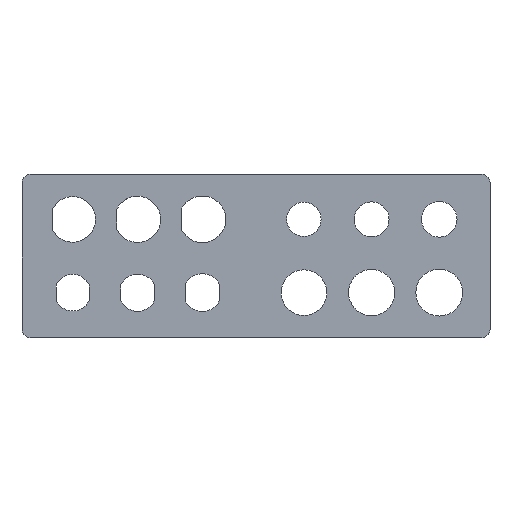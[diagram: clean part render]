
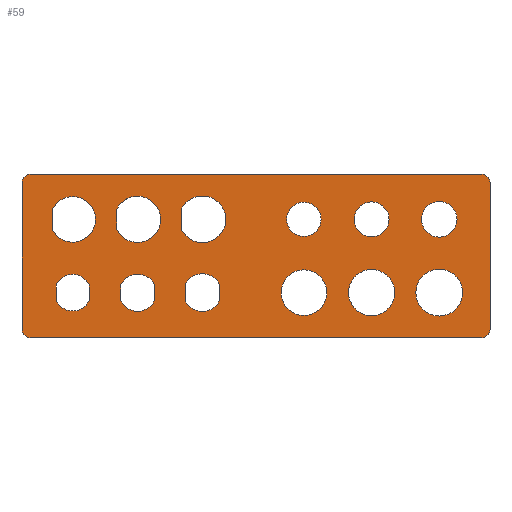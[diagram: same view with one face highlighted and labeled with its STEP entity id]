
A CAD part, top view. The second image highlights one B-rep face of the part: STEP entity #59.
In plain terms, the highlighted planar face has unit normal (0, 0, 1).
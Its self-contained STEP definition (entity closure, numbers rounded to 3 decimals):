
#21 = EDGE_CURVE('',#22,#24,#26,.T.);
#22 = VERTEX_POINT('',#23);
#23 = CARTESIAN_POINT('',(0.,3.,3.2));
#24 = VERTEX_POINT('',#25);
#25 = CARTESIAN_POINT('',(3.,0.,3.2));
#26 = CIRCLE('',#27,3.);
#27 = AXIS2_PLACEMENT_3D('',#28,#29,#30);
#28 = CARTESIAN_POINT('',(3.,3.,3.2));
#29 = DIRECTION('',(0.,0.,1.));
#30 = DIRECTION('',(1.,0.,-0.));
#59 = ADVANCED_FACE('',(#60,#120,#156,#192,#228,#239,#250,#261,#280,#299
    ,#318,#329,#340),#351,.T.);
#60 = FACE_BOUND('',#61,.T.);
#61 = EDGE_LOOP('',(#62,#63,#71,#80,#88,#97,#105,#114));
#62 = ORIENTED_EDGE('',*,*,#21,.T.);
#63 = ORIENTED_EDGE('',*,*,#64,.T.);
#64 = EDGE_CURVE('',#24,#65,#67,.T.);
#65 = VERTEX_POINT('',#66);
#66 = CARTESIAN_POINT('',(163.,0.,3.2));
#67 = LINE('',#68,#69);
#68 = CARTESIAN_POINT('',(3.,0.,3.2));
#69 = VECTOR('',#70,1.);
#70 = DIRECTION('',(1.,0.,-0.));
#71 = ORIENTED_EDGE('',*,*,#72,.T.);
#72 = EDGE_CURVE('',#65,#73,#75,.T.);
#73 = VERTEX_POINT('',#74);
#74 = CARTESIAN_POINT('',(166.,3.,3.2));
#75 = CIRCLE('',#76,3.);
#76 = AXIS2_PLACEMENT_3D('',#77,#78,#79);
#77 = CARTESIAN_POINT('',(163.,3.,3.2));
#78 = DIRECTION('',(0.,0.,1.));
#79 = DIRECTION('',(1.,0.,-0.));
#80 = ORIENTED_EDGE('',*,*,#81,.T.);
#81 = EDGE_CURVE('',#73,#82,#84,.T.);
#82 = VERTEX_POINT('',#83);
#83 = CARTESIAN_POINT('',(166.,55.,3.2));
#84 = LINE('',#85,#86);
#85 = CARTESIAN_POINT('',(166.,3.,3.2));
#86 = VECTOR('',#87,1.);
#87 = DIRECTION('',(-0.,1.,0.));
#88 = ORIENTED_EDGE('',*,*,#89,.T.);
#89 = EDGE_CURVE('',#82,#90,#92,.T.);
#90 = VERTEX_POINT('',#91);
#91 = CARTESIAN_POINT('',(163.,58.,3.2));
#92 = CIRCLE('',#93,3.);
#93 = AXIS2_PLACEMENT_3D('',#94,#95,#96);
#94 = CARTESIAN_POINT('',(163.,55.,3.2));
#95 = DIRECTION('',(0.,0.,1.));
#96 = DIRECTION('',(1.,0.,-0.));
#97 = ORIENTED_EDGE('',*,*,#98,.F.);
#98 = EDGE_CURVE('',#99,#90,#101,.T.);
#99 = VERTEX_POINT('',#100);
#100 = CARTESIAN_POINT('',(3.,58.,3.2));
#101 = LINE('',#102,#103);
#102 = CARTESIAN_POINT('',(3.,58.,3.2));
#103 = VECTOR('',#104,1.);
#104 = DIRECTION('',(1.,0.,-0.));
#105 = ORIENTED_EDGE('',*,*,#106,.T.);
#106 = EDGE_CURVE('',#99,#107,#109,.T.);
#107 = VERTEX_POINT('',#108);
#108 = CARTESIAN_POINT('',(0.,55.,3.2));
#109 = CIRCLE('',#110,3.);
#110 = AXIS2_PLACEMENT_3D('',#111,#112,#113);
#111 = CARTESIAN_POINT('',(3.,55.,3.2));
#112 = DIRECTION('',(0.,0.,1.));
#113 = DIRECTION('',(1.,0.,-0.));
#114 = ORIENTED_EDGE('',*,*,#115,.F.);
#115 = EDGE_CURVE('',#22,#107,#116,.T.);
#116 = LINE('',#117,#118);
#117 = CARTESIAN_POINT('',(0.,3.,3.2));
#118 = VECTOR('',#119,1.);
#119 = DIRECTION('',(-0.,1.,0.));
#120 = FACE_BOUND('',#121,.T.);
#121 = EDGE_LOOP('',(#122,#133,#141,#150));
#122 = ORIENTED_EDGE('',*,*,#123,.F.);
#123 = EDGE_CURVE('',#124,#126,#128,.T.);
#124 = VERTEX_POINT('',#125);
#125 = CARTESIAN_POINT('',(12.1,13.272,3.2));
#126 = VERTEX_POINT('',#127);
#127 = CARTESIAN_POINT('',(23.9,13.272,3.2));
#128 = CIRCLE('',#129,6.5);
#129 = AXIS2_PLACEMENT_3D('',#130,#131,#132);
#130 = CARTESIAN_POINT('',(18.,16.,3.2));
#131 = DIRECTION('',(0.,0.,1.));
#132 = DIRECTION('',(1.,0.,-0.));
#133 = ORIENTED_EDGE('',*,*,#134,.T.);
#134 = EDGE_CURVE('',#124,#135,#137,.T.);
#135 = VERTEX_POINT('',#136);
#136 = CARTESIAN_POINT('',(12.1,18.728,3.2));
#137 = LINE('',#138,#139);
#138 = CARTESIAN_POINT('',(12.1,18.75,3.2));
#139 = VECTOR('',#140,1.);
#140 = DIRECTION('',(-0.,1.,0.));
#141 = ORIENTED_EDGE('',*,*,#142,.F.);
#142 = EDGE_CURVE('',#143,#135,#145,.T.);
#143 = VERTEX_POINT('',#144);
#144 = CARTESIAN_POINT('',(23.9,18.728,3.2));
#145 = CIRCLE('',#146,6.5);
#146 = AXIS2_PLACEMENT_3D('',#147,#148,#149);
#147 = CARTESIAN_POINT('',(18.,16.,3.2));
#148 = DIRECTION('',(0.,0.,1.));
#149 = DIRECTION('',(1.,0.,-0.));
#150 = ORIENTED_EDGE('',*,*,#151,.F.);
#151 = EDGE_CURVE('',#126,#143,#152,.T.);
#152 = LINE('',#153,#154);
#153 = CARTESIAN_POINT('',(23.9,18.75,3.2));
#154 = VECTOR('',#155,1.);
#155 = DIRECTION('',(-0.,1.,0.));
#156 = FACE_BOUND('',#157,.T.);
#157 = EDGE_LOOP('',(#158,#169,#177,#186));
#158 = ORIENTED_EDGE('',*,*,#159,.F.);
#159 = EDGE_CURVE('',#160,#162,#164,.T.);
#160 = VERTEX_POINT('',#161);
#161 = CARTESIAN_POINT('',(35.,13.25,3.2));
#162 = VERTEX_POINT('',#163);
#163 = CARTESIAN_POINT('',(47.,13.25,3.2));
#164 = CIRCLE('',#165,6.6);
#165 = AXIS2_PLACEMENT_3D('',#166,#167,#168);
#166 = CARTESIAN_POINT('',(41.,16.,3.2));
#167 = DIRECTION('',(0.,0.,1.));
#168 = DIRECTION('',(1.,0.,-0.));
#169 = ORIENTED_EDGE('',*,*,#170,.T.);
#170 = EDGE_CURVE('',#160,#171,#173,.T.);
#171 = VERTEX_POINT('',#172);
#172 = CARTESIAN_POINT('',(35.,18.75,3.2));
#173 = LINE('',#174,#175);
#174 = CARTESIAN_POINT('',(35.,18.7,3.2));
#175 = VECTOR('',#176,1.);
#176 = DIRECTION('',(-0.,1.,0.));
#177 = ORIENTED_EDGE('',*,*,#178,.F.);
#178 = EDGE_CURVE('',#179,#171,#181,.T.);
#179 = VERTEX_POINT('',#180);
#180 = CARTESIAN_POINT('',(47.,18.75,3.2));
#181 = CIRCLE('',#182,6.6);
#182 = AXIS2_PLACEMENT_3D('',#183,#184,#185);
#183 = CARTESIAN_POINT('',(41.,16.,3.2));
#184 = DIRECTION('',(0.,0.,1.));
#185 = DIRECTION('',(1.,0.,-0.));
#186 = ORIENTED_EDGE('',*,*,#187,.F.);
#187 = EDGE_CURVE('',#162,#179,#188,.T.);
#188 = LINE('',#189,#190);
#189 = CARTESIAN_POINT('',(47.,18.7,3.2));
#190 = VECTOR('',#191,1.);
#191 = DIRECTION('',(-0.,1.,0.));
#192 = FACE_BOUND('',#193,.T.);
#193 = EDGE_LOOP('',(#194,#205,#213,#222));
#194 = ORIENTED_EDGE('',*,*,#195,.F.);
#195 = EDGE_CURVE('',#196,#198,#200,.T.);
#196 = VERTEX_POINT('',#197);
#197 = CARTESIAN_POINT('',(57.9,13.229,3.2));
#198 = VERTEX_POINT('',#199);
#199 = CARTESIAN_POINT('',(70.1,13.229,3.2));
#200 = CIRCLE('',#201,6.7);
#201 = AXIS2_PLACEMENT_3D('',#202,#203,#204);
#202 = CARTESIAN_POINT('',(64.,16.,3.2));
#203 = DIRECTION('',(0.,0.,1.));
#204 = DIRECTION('',(1.,0.,-0.));
#205 = ORIENTED_EDGE('',*,*,#206,.T.);
#206 = EDGE_CURVE('',#196,#207,#209,.T.);
#207 = VERTEX_POINT('',#208);
#208 = CARTESIAN_POINT('',(57.9,18.771,3.2));
#209 = LINE('',#210,#211);
#210 = CARTESIAN_POINT('',(57.9,18.65,3.2));
#211 = VECTOR('',#212,1.);
#212 = DIRECTION('',(-0.,1.,0.));
#213 = ORIENTED_EDGE('',*,*,#214,.F.);
#214 = EDGE_CURVE('',#215,#207,#217,.T.);
#215 = VERTEX_POINT('',#216);
#216 = CARTESIAN_POINT('',(70.1,18.771,3.2));
#217 = CIRCLE('',#218,6.7);
#218 = AXIS2_PLACEMENT_3D('',#219,#220,#221);
#219 = CARTESIAN_POINT('',(64.,16.,3.2));
#220 = DIRECTION('',(0.,0.,1.));
#221 = DIRECTION('',(1.,0.,-0.));
#222 = ORIENTED_EDGE('',*,*,#223,.F.);
#223 = EDGE_CURVE('',#198,#215,#224,.T.);
#224 = LINE('',#225,#226);
#225 = CARTESIAN_POINT('',(70.1,18.65,3.2));
#226 = VECTOR('',#227,1.);
#227 = DIRECTION('',(-0.,1.,0.));
#228 = FACE_BOUND('',#229,.T.);
#229 = EDGE_LOOP('',(#230));
#230 = ORIENTED_EDGE('',*,*,#231,.F.);
#231 = EDGE_CURVE('',#232,#232,#234,.T.);
#232 = VERTEX_POINT('',#233);
#233 = CARTESIAN_POINT('',(108.1,16.,3.2));
#234 = CIRCLE('',#235,8.1);
#235 = AXIS2_PLACEMENT_3D('',#236,#237,#238);
#236 = CARTESIAN_POINT('',(100.,16.,3.2));
#237 = DIRECTION('',(0.,0.,1.));
#238 = DIRECTION('',(1.,0.,-0.));
#239 = FACE_BOUND('',#240,.T.);
#240 = EDGE_LOOP('',(#241));
#241 = ORIENTED_EDGE('',*,*,#242,.F.);
#242 = EDGE_CURVE('',#243,#243,#245,.T.);
#243 = VERTEX_POINT('',#244);
#244 = CARTESIAN_POINT('',(132.2,16.,3.2));
#245 = CIRCLE('',#246,8.2);
#246 = AXIS2_PLACEMENT_3D('',#247,#248,#249);
#247 = CARTESIAN_POINT('',(124.,16.,3.2));
#248 = DIRECTION('',(0.,0.,1.));
#249 = DIRECTION('',(1.,0.,-0.));
#250 = FACE_BOUND('',#251,.T.);
#251 = EDGE_LOOP('',(#252));
#252 = ORIENTED_EDGE('',*,*,#253,.F.);
#253 = EDGE_CURVE('',#254,#254,#256,.T.);
#254 = VERTEX_POINT('',#255);
#255 = CARTESIAN_POINT('',(156.3,16.,3.2));
#256 = CIRCLE('',#257,8.3);
#257 = AXIS2_PLACEMENT_3D('',#258,#259,#260);
#258 = CARTESIAN_POINT('',(148.,16.,3.2));
#259 = DIRECTION('',(0.,0.,1.));
#260 = DIRECTION('',(1.,0.,-0.));
#261 = FACE_BOUND('',#262,.T.);
#262 = EDGE_LOOP('',(#263,#274));
#263 = ORIENTED_EDGE('',*,*,#264,.F.);
#264 = EDGE_CURVE('',#265,#267,#269,.T.);
#265 = VERTEX_POINT('',#266);
#266 = CARTESIAN_POINT('',(10.7,38.49,3.2));
#267 = VERTEX_POINT('',#268);
#268 = CARTESIAN_POINT('',(10.7,45.51,3.2));
#269 = CIRCLE('',#270,8.1);
#270 = AXIS2_PLACEMENT_3D('',#271,#272,#273);
#271 = CARTESIAN_POINT('',(18.,42.,3.2));
#272 = DIRECTION('',(0.,0.,1.));
#273 = DIRECTION('',(1.,0.,-0.));
#274 = ORIENTED_EDGE('',*,*,#275,.T.);
#275 = EDGE_CURVE('',#265,#267,#276,.T.);
#276 = LINE('',#277,#278);
#277 = CARTESIAN_POINT('',(10.7,30.95,3.2));
#278 = VECTOR('',#279,1.);
#279 = DIRECTION('',(-0.,1.,0.));
#280 = FACE_BOUND('',#281,.T.);
#281 = EDGE_LOOP('',(#282,#293));
#282 = ORIENTED_EDGE('',*,*,#283,.F.);
#283 = EDGE_CURVE('',#284,#286,#288,.T.);
#284 = VERTEX_POINT('',#285);
#285 = CARTESIAN_POINT('',(33.6,38.467,3.2));
#286 = VERTEX_POINT('',#287);
#287 = CARTESIAN_POINT('',(33.6,45.533,3.2));
#288 = CIRCLE('',#289,8.2);
#289 = AXIS2_PLACEMENT_3D('',#290,#291,#292);
#290 = CARTESIAN_POINT('',(41.,42.,3.2));
#291 = DIRECTION('',(0.,0.,1.));
#292 = DIRECTION('',(1.,0.,-0.));
#293 = ORIENTED_EDGE('',*,*,#294,.T.);
#294 = EDGE_CURVE('',#284,#286,#295,.T.);
#295 = LINE('',#296,#297);
#296 = CARTESIAN_POINT('',(33.6,30.9,3.2));
#297 = VECTOR('',#298,1.);
#298 = DIRECTION('',(-0.,1.,0.));
#299 = FACE_BOUND('',#300,.T.);
#300 = EDGE_LOOP('',(#301,#312));
#301 = ORIENTED_EDGE('',*,*,#302,.F.);
#302 = EDGE_CURVE('',#303,#305,#307,.T.);
#303 = VERTEX_POINT('',#304);
#304 = CARTESIAN_POINT('',(56.5,38.445,3.2));
#305 = VERTEX_POINT('',#306);
#306 = CARTESIAN_POINT('',(56.5,45.555,3.2));
#307 = CIRCLE('',#308,8.3);
#308 = AXIS2_PLACEMENT_3D('',#309,#310,#311);
#309 = CARTESIAN_POINT('',(64.,42.,3.2));
#310 = DIRECTION('',(0.,0.,1.));
#311 = DIRECTION('',(1.,0.,-0.));
#312 = ORIENTED_EDGE('',*,*,#313,.T.);
#313 = EDGE_CURVE('',#303,#305,#314,.T.);
#314 = LINE('',#315,#316);
#315 = CARTESIAN_POINT('',(56.5,30.85,3.2));
#316 = VECTOR('',#317,1.);
#317 = DIRECTION('',(-0.,1.,0.));
#318 = FACE_BOUND('',#319,.T.);
#319 = EDGE_LOOP('',(#320));
#320 = ORIENTED_EDGE('',*,*,#321,.F.);
#321 = EDGE_CURVE('',#322,#322,#324,.T.);
#322 = VERTEX_POINT('',#323);
#323 = CARTESIAN_POINT('',(106.1,42.,3.2));
#324 = CIRCLE('',#325,6.1);
#325 = AXIS2_PLACEMENT_3D('',#326,#327,#328);
#326 = CARTESIAN_POINT('',(100.,42.,3.2));
#327 = DIRECTION('',(0.,0.,1.));
#328 = DIRECTION('',(1.,0.,-0.));
#329 = FACE_BOUND('',#330,.T.);
#330 = EDGE_LOOP('',(#331));
#331 = ORIENTED_EDGE('',*,*,#332,.F.);
#332 = EDGE_CURVE('',#333,#333,#335,.T.);
#333 = VERTEX_POINT('',#334);
#334 = CARTESIAN_POINT('',(130.2,42.,3.2));
#335 = CIRCLE('',#336,6.2);
#336 = AXIS2_PLACEMENT_3D('',#337,#338,#339);
#337 = CARTESIAN_POINT('',(124.,42.,3.2));
#338 = DIRECTION('',(0.,0.,1.));
#339 = DIRECTION('',(1.,0.,-0.));
#340 = FACE_BOUND('',#341,.T.);
#341 = EDGE_LOOP('',(#342));
#342 = ORIENTED_EDGE('',*,*,#343,.F.);
#343 = EDGE_CURVE('',#344,#344,#346,.T.);
#344 = VERTEX_POINT('',#345);
#345 = CARTESIAN_POINT('',(154.3,42.,3.2));
#346 = CIRCLE('',#347,6.3);
#347 = AXIS2_PLACEMENT_3D('',#348,#349,#350);
#348 = CARTESIAN_POINT('',(148.,42.,3.2));
#349 = DIRECTION('',(0.,0.,1.));
#350 = DIRECTION('',(1.,0.,-0.));
#351 = PLANE('',#352);
#352 = AXIS2_PLACEMENT_3D('',#353,#354,#355);
#353 = CARTESIAN_POINT('',(83.,29.,3.2));
#354 = DIRECTION('',(0.,0.,1.));
#355 = DIRECTION('',(1.,0.,-0.));
